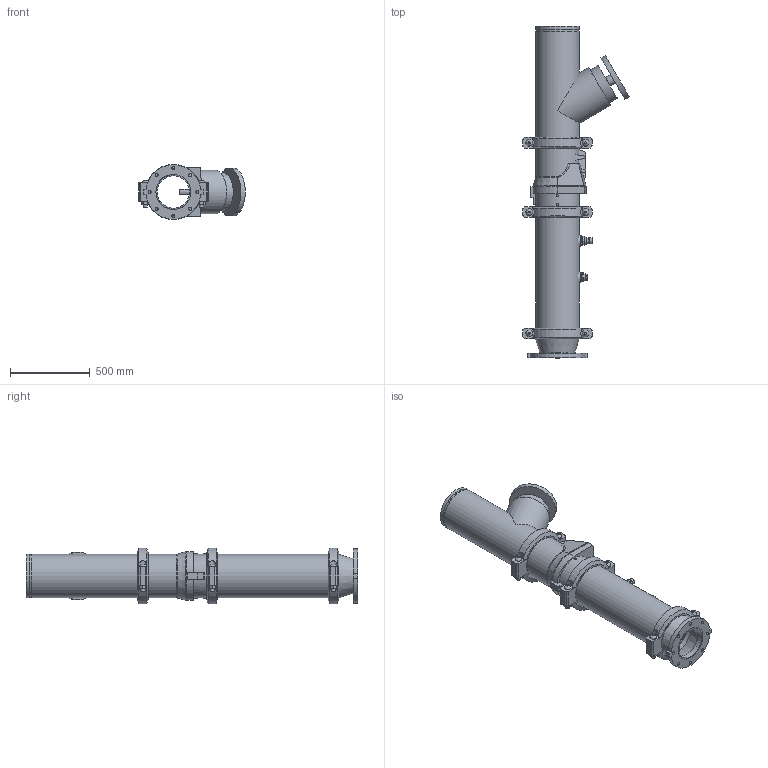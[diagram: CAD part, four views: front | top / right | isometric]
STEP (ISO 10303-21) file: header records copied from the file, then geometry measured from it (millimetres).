
FILE_DESCRIPTION(/* description */ ('VIC DVI PUMP DROP VERT S/383 (OGSxFLG) (S/924-0.75)','CAx-IF Rec.Pracs.---Representation and Presentation of Product Manufacturing Information (PMI)---4.0---2014-10-13'),/* implementation_level */ '2;1');
FILE_NAME(/* name */ 'C:\Users\Public\Documents\Victaulic.Temp\A849\Victaulic_IPS_Vertical DVI_CL 150_Series 383 (OGSxFLG)_924 (0.75)_10.0x08.0 (250x200).stp',/* time_stamp */ '2022-07-25T11:42:07+02:00',/* author */ ('Vjadhav'),/* organization */ ('Victaulic'),/* preprocessor_version */ 'ST-DEVELOPER v18',/* originating_system */ 'Autodesk Inventor 2020',/* authorisation */ '');
FILE_SCHEMA (('AP242_MANAGED_MODEL_BASED_3D_ENGINEERING_MIM_LF { 1 0 10303 442 1 1 4 }'));
Length unit declared in the file: inch
Products named in the file (9): 383_924 (0.75)-10.0x08.0; 741-08.0; 050-10.0x08.0; Pipe-10.0; 789-10.0; 779-10.0; 924-10.0x0.75; 923-10.0x0.75; 077-10.0
Assembly tree (10 placements, depth 2):
  383_924 (0.75)-10.0x08.0
    741-08.0
    050-10.0x08.0
    Pipe-10.0
    789-10.0
    779-10.0
    924-10.0x0.75
    923-10.0x0.75
    077-10.0  x3
Bounding box: 668.4 x 2081.28 x 344.9 mm (x, y, z)
Volume: 45080014.7 mm3; surface area: 5057277.7 mm2
Topology: 10 solids, 16 shells, 438 faces, 1092 edges, 748 vertices
Faces by surface type: plane 260, cylinder 145, cone 19, bspline 8, torus 6
Full cylindrical faces by diameter (mm): 13.716 x4, 19.05 x8, 21.336 x1, 25.4 x12, 26.67 x2, 27.432 x6, 38.608 x1, 45.974 x4, 55.626 x2, 60.96 x1, 76.2 x1, 202.717 x1, 214.401 x1, 219.075 x3, 237.49 x1, 254.508 x4, 264.16 x3, 268.275 x7, 273.05 x19, 299.974 x1
Entity records: 10875 total; most frequent: CARTESIAN_POINT 2131, DIRECTION 1791, ORIENTED_EDGE 1604, EDGE_CURVE 802, AXIS2_PLACEMENT_3D 688, VERTEX_POINT 552, LINE 415, VECTOR 415
